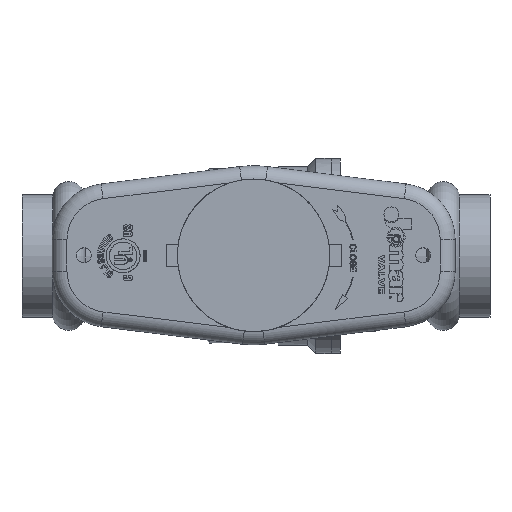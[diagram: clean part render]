
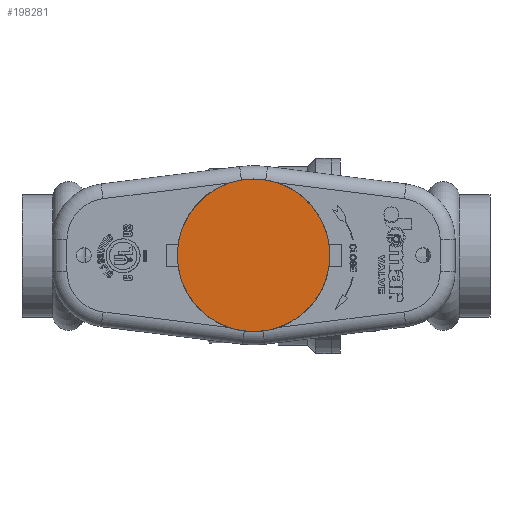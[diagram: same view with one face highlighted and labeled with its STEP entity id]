
A CAD part, top view. The second image highlights one B-rep face of the part: STEP entity #198281.
In plain terms, the highlighted planar face has unit normal (0, 0, 1).
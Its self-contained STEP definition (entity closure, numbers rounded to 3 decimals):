
#198073 = CYLINDRICAL_SURFACE('',#198074,0.636);
#198074 = AXIS2_PLACEMENT_3D('',#198075,#198076,#198077);
#198075 = CARTESIAN_POINT('',(1.927,0.064,
    3.713));
#198076 = DIRECTION('',(0.,0.,-1.));
#198077 = DIRECTION('',(0.,1.,0.));
#198148 = VERTEX_POINT('',#198149);
#198149 = CARTESIAN_POINT('',(1.927,0.7,
    3.713));
#198169 = EDGE_CURVE('',#198148,#198148,#198170,.T.);
#198170 = SURFACE_CURVE('',#198171,(#198176,#198183),.PCURVE_S1.);
#198171 = CIRCLE('',#198172,0.636);
#198172 = AXIS2_PLACEMENT_3D('',#198173,#198174,#198175);
#198173 = CARTESIAN_POINT('',(1.927,0.064,
    3.713));
#198174 = DIRECTION('',(0.,0.,1.));
#198175 = DIRECTION('',(0.,1.,0.));
#198176 = PCURVE('',#198073,#198177);
#198177 = DEFINITIONAL_REPRESENTATION('',(#198178),#198182);
#198178 = LINE('',#198179,#198180);
#198179 = CARTESIAN_POINT('',(6.283,0.));
#198180 = VECTOR('',#198181,1.);
#198181 = DIRECTION('',(-1.,0.));
#198182 = ( GEOMETRIC_REPRESENTATION_CONTEXT(2) 
PARAMETRIC_REPRESENTATION_CONTEXT() REPRESENTATION_CONTEXT('2D SPACE',''
  ) );
#198183 = PCURVE('',#198184,#198189);
#198184 = PLANE('',#198185);
#198185 = AXIS2_PLACEMENT_3D('',#198186,#198187,#198188);
#198186 = CARTESIAN_POINT('',(1.927,0.064,
    3.713));
#198187 = DIRECTION('',(0.,0.,1.));
#198188 = DIRECTION('',(0.,1.,0.));
#198189 = DEFINITIONAL_REPRESENTATION('',(#198190),#198194);
#198190 = CIRCLE('',#198191,0.636);
#198191 = AXIS2_PLACEMENT_2D('',#198192,#198193);
#198192 = CARTESIAN_POINT('',(0.,0.));
#198193 = DIRECTION('',(1.,0.));
#198194 = ( GEOMETRIC_REPRESENTATION_CONTEXT(2) 
PARAMETRIC_REPRESENTATION_CONTEXT() REPRESENTATION_CONTEXT('2D SPACE',''
  ) );
#198281 = ADVANCED_FACE('',(#198282),#198184,.T.);
#198282 = FACE_BOUND('',#198283,.T.);
#198283 = EDGE_LOOP('',(#198284));
#198284 = ORIENTED_EDGE('',*,*,#198169,.T.);
